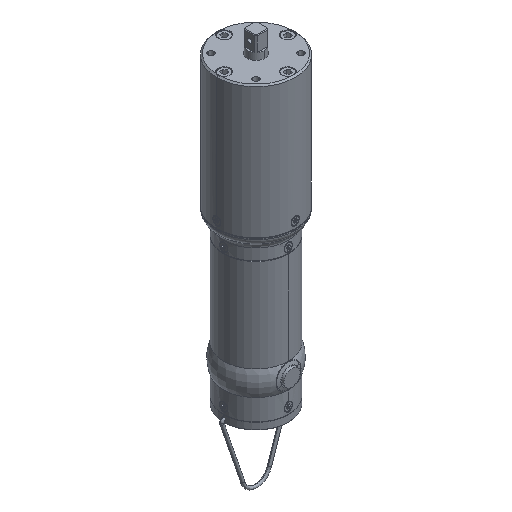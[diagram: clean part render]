
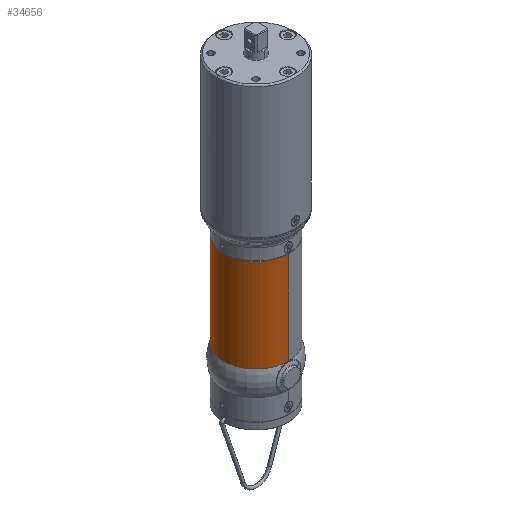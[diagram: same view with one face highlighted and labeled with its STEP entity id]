
A CAD part, isometric view. The second image highlights one B-rep face of the part: STEP entity #34656.
In plain terms, the highlighted cylindrical face has radius 23.5 mm (diameter 47 mm), a partial arc.
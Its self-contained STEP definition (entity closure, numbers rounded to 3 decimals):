
#766 = VERTEX_POINT ( 'NONE', #33578 ) ;
#2024 = DIRECTION ( 'NONE',  ( 0., 0., -1. ) ) ;
#2798 = ORIENTED_EDGE ( 'NONE', *, *, #24453, .T. ) ;
#6173 = ORIENTED_EDGE ( 'NONE', *, *, #49817, .F. ) ;
#7527 = CARTESIAN_POINT ( 'NONE',  ( 0., 217.954, 0. ) ) ;
#9230 = AXIS2_PLACEMENT_3D ( 'NONE', #42573, #37067, #31562 ) ;
#10010 = CARTESIAN_POINT ( 'NONE',  ( 0., 217.954, 100.8 ) ) ;
#10747 = CARTESIAN_POINT ( 'NONE',  ( 0., 264.954, 100.8 ) ) ;
#10753 = FACE_OUTER_BOUND ( 'NONE', #17439, .T. ) ;
#12148 = AXIS2_PLACEMENT_3D ( 'NONE', #49731, #44286, #38787 ) ;
#12497 = DIRECTION ( 'NONE',  ( 0., 0., -1. ) ) ;
#13503 = CYLINDRICAL_SURFACE ( 'NONE', #12148, 23.5 ) ;
#13850 = CIRCLE ( 'NONE', #23193, 23.5 ) ;
#14056 = EDGE_CURVE ( 'NONE', #49481, #766, #23407, .T. ) ;
#14829 = VECTOR ( 'NONE', #12497, 1000. ) ;
#17439 = EDGE_LOOP ( 'NONE', ( #24736, #2798, #26679, #6173 ) ) ;
#17953 = CARTESIAN_POINT ( 'NONE',  ( 0., 264.954, 0. ) ) ;
#18465 = LINE ( 'NONE', #7527, #22460 ) ;
#22460 = VECTOR ( 'NONE', #2024, 1000. ) ;
#23193 = AXIS2_PLACEMENT_3D ( 'NONE', #51354, #45906, #40443 ) ;
#23407 = LINE ( 'NONE', #17953, #14829 ) ;
#24453 = EDGE_CURVE ( 'NONE', #38180, #49481, #13850, .T. ) ;
#24736 = ORIENTED_EDGE ( 'NONE', *, *, #30495, .F. ) ;
#26679 = ORIENTED_EDGE ( 'NONE', *, *, #14056, .T. ) ;
#29092 = VERTEX_POINT ( 'NONE', #50935 ) ;
#30495 = EDGE_CURVE ( 'NONE', #38180, #29092, #18465, .T. ) ;
#31562 = DIRECTION ( 'NONE',  ( 0., 1., 0. ) ) ;
#33578 = CARTESIAN_POINT ( 'NONE',  ( 0., 264.954, 33.5 ) ) ;
#34656 = ADVANCED_FACE ( 'NONE', ( #10753 ), #13503, .T. ) ;
#34893 = CIRCLE ( 'NONE', #9230, 23.5 ) ;
#37067 = DIRECTION ( 'NONE',  ( 0., 0., -1. ) ) ;
#38180 = VERTEX_POINT ( 'NONE', #10010 ) ;
#38787 = DIRECTION ( 'NONE',  ( 0., 1., 0. ) ) ;
#40443 = DIRECTION ( 'NONE',  ( 0., 1., 0. ) ) ;
#42573 = CARTESIAN_POINT ( 'NONE',  ( 0., 241.454, 33.5 ) ) ;
#44286 = DIRECTION ( 'NONE',  ( 0., 0., -1. ) ) ;
#45906 = DIRECTION ( 'NONE',  ( 0., 0., -1. ) ) ;
#49481 = VERTEX_POINT ( 'NONE', #10747 ) ;
#49731 = CARTESIAN_POINT ( 'NONE',  ( 0., 241.454, 0. ) ) ;
#49817 = EDGE_CURVE ( 'NONE', #29092, #766, #34893, .T. ) ;
#50935 = CARTESIAN_POINT ( 'NONE',  ( 0., 217.954, 33.5 ) ) ;
#51354 = CARTESIAN_POINT ( 'NONE',  ( 0., 241.454, 100.8 ) ) ;
